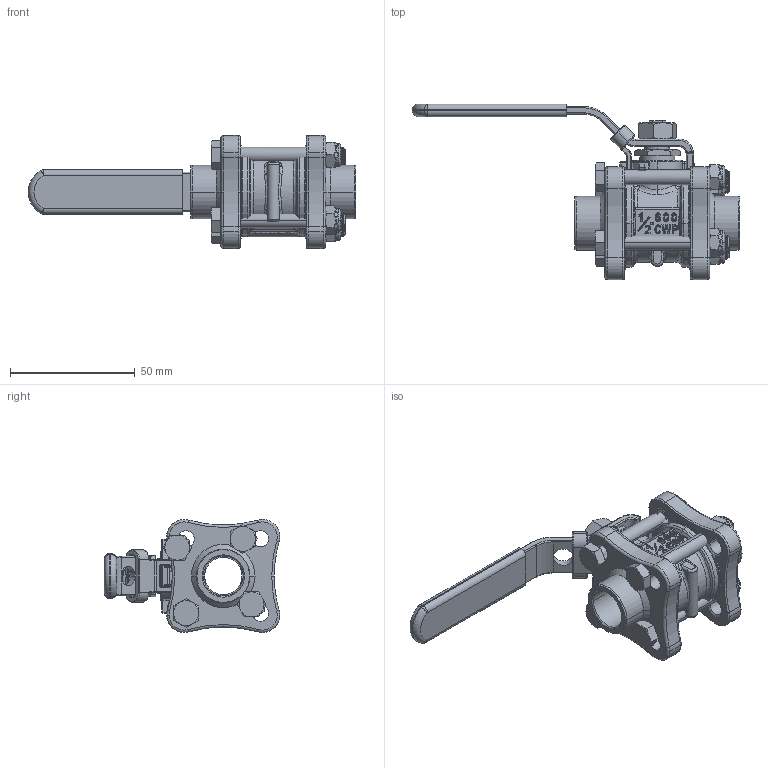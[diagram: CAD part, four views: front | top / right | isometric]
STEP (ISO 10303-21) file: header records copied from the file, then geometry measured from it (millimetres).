
FILE_DESCRIPTION (( 'STEP AP203' ), '1' );
FILE_NAME ('S-15.STEP', '2025-02-27T05:18:13', ( 'user' ), ( '' ), 'SwSTEP 2.0', 'SolidWorks 2012', '' );
FILE_SCHEMA (( 'CONFIG_CONTROL_DESIGN' ));
Products named in the file (17): S-15; 掛鎖; 15-HANDLE NUT; 14-HANDLE COVER; 13-HANDLE; 12-CAP BOLT; 11-CAP NUT; 10-GLAND; 9-BODY SEAL; 8-GLAND PACKING; 7-0-RING; 6-THRUST WASHER; 5-SEAT; 4-STEM; 3-BALL; 2-CAP; 1-BODY
Assembly tree (26 placements, depth 2):
  S-15
    1-BODY
    2-CAP  x2
    3-BALL
    4-STEM
    5-SEAT  x2
    6-THRUST WASHER
    7-0-RING  x2
    8-GLAND PACKING
    9-BODY SEAL  x2
    10-GLAND
    11-CAP NUT  x4
    12-CAP BOLT  x4
    13-HANDLE
    14-HANDLE COVER
    15-HANDLE NUT
    掛鎖
Bounding box: 131.48 x 70.51 x 45.39 mm (x, y, z)
Volume: 66423.8 mm3; surface area: 49266.5 mm2
Topology: 26 solids, 26 shells, 1527 faces, 3776 edges, 2289 vertices
Faces by surface type: cylinder 494, bspline 329, plane 310, torus 183, cone 159, sphere 52
Entity records: 77220 total; most frequent: CARTESIAN_POINT 51422, ORIENTED_EDGE 5418, DIRECTION 4387, EDGE_CURVE 2709, AXIS2_PLACEMENT_3D 1818, VERTEX_POINT 1650, EDGE_LOOP 1195, FACE_OUTER_BOUND 1124
